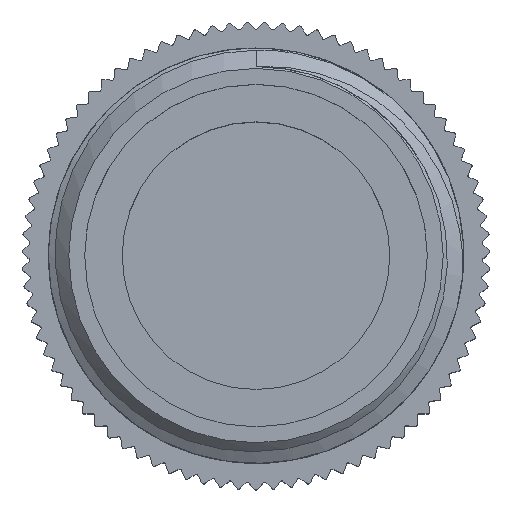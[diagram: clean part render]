
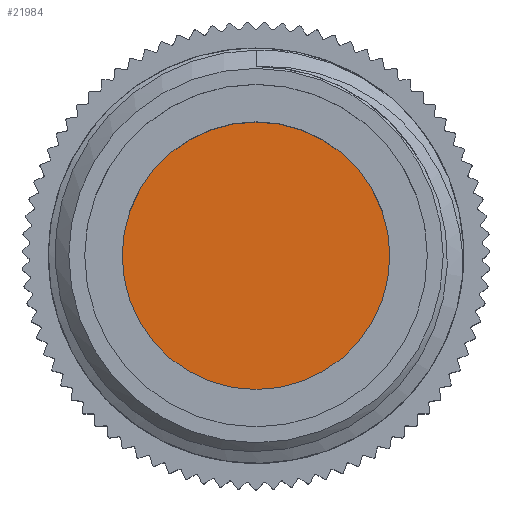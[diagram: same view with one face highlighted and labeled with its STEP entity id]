
A CAD part, top view. The second image highlights one B-rep face of the part: STEP entity #21984.
In plain terms, the highlighted planar face has unit normal (0, 0, 1).
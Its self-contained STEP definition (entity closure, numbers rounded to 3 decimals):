
#300 = FACE_OUTER_BOUND ( 'NONE', #14523, .T. ) ;
#4740 = DIRECTION ( 'NONE',  ( 1., 0., 0. ) ) ;
#8288 = CIRCLE ( 'NONE', #19411, 7.15 ) ;
#14523 = EDGE_LOOP ( 'NONE', ( #34418 ) ) ;
#14543 = AXIS2_PLACEMENT_3D ( 'NONE', #31441, #22787, #14549 ) ;
#14549 = DIRECTION ( 'NONE',  ( 0., -1., 0. ) ) ;
#16973 = VERTEX_POINT ( 'NONE', #18624 ) ;
#18624 = CARTESIAN_POINT ( 'NONE',  ( 7.15, 0., -9.5 ) ) ;
#19411 = AXIS2_PLACEMENT_3D ( 'NONE', #21613, #24201, #4740 ) ;
#21613 = CARTESIAN_POINT ( 'NONE',  ( 0., 0., -9.5 ) ) ;
#21984 = ADVANCED_FACE ( 'NONE', ( #300 ), #23161, .F. ) ;
#22787 = DIRECTION ( 'NONE',  ( 0., 0., -1. ) ) ;
#23161 = PLANE ( 'NONE',  #14543 ) ;
#24201 = DIRECTION ( 'NONE',  ( 0., 0., 1. ) ) ;
#31441 = CARTESIAN_POINT ( 'NONE',  ( 0., 7.15, -9.5 ) ) ;
#34418 = ORIENTED_EDGE ( 'NONE', *, *, #35458, .T. ) ;
#35458 = EDGE_CURVE ( 'NONE', #16973, #16973, #8288, .T. ) ;
